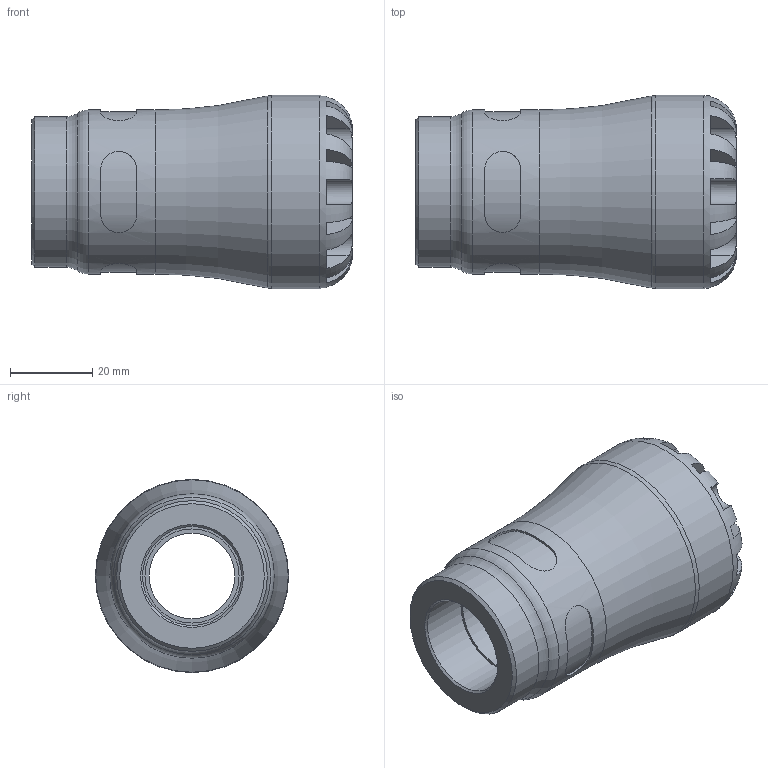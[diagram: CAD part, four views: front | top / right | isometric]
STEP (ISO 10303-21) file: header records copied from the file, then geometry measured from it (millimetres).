
FILE_DESCRIPTION(/* description */ ('PLASSON FEMALE INTEGRAL BRASS THREAD 25X3/4" G SERIES 1'),/* implementation_level */ '2;1');
FILE_NAME(/* name */ 'C:\Dropbox\KIMPROJECTS-Inventor\99-16-3568-Processing\1073G\1073G0025007.ipt.stp',/* time_stamp */ '2017-01-22T11:37:58+02:00',/* author */ ('KIM'),/* organization */ (''),/* preprocessor_version */ 'ST-DEVELOPER v15.6',/* originating_system */ 'Autodesk Inventor 2015',/* authorisation */ '');
FILE_SCHEMA (('AUTOMOTIVE_DESIGN { 1 0 10303 214 3 1 1 }'));
Length unit declared in the file: millimetre
Products named in the file (1): 1073G0025007
Bounding box: 78 x 47 x 47 mm (x, y, z)
Volume: 69196.7 mm3; surface area: 19090 mm2
Topology: 1 solids, 1 shells, 104 faces, 255 edges, 159 vertices
Faces by surface type: plane 61, cylinder 35, torus 5, cone 3
Full cylindrical faces by diameter (mm): 20.833 x1, 22.911 x1, 24.117 x1, 25 x1, 36.66 x1, 39.95 x1, 47 x1
Entity records: 3752 total; most frequent: CARTESIAN_POINT 1417, DIRECTION 472, ORIENTED_EDGE 470, EDGE_CURVE 235, AXIS2_PLACEMENT_3D 196, VERTEX_POINT 155, EDGE_LOOP 128, FACE_OUTER_BOUND 104
